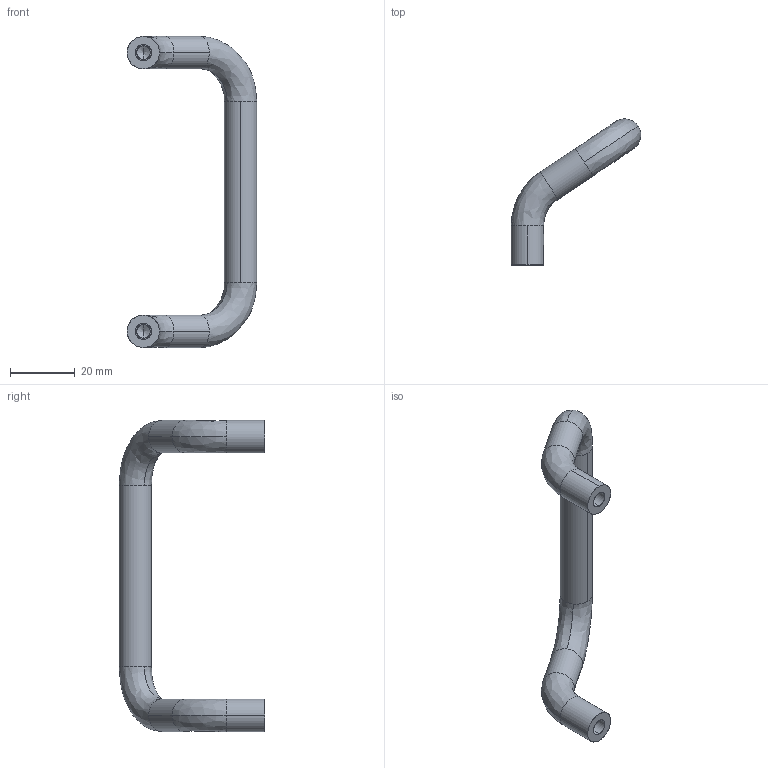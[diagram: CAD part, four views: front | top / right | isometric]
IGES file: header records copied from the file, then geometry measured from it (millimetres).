
Start section: SolidWorks IGES file using analytic representation for surfaces
Global section: file name: C:\Users\IanO\Desktop\Temp File\Process pending\79840_v2\79840_v2_20171115_IGES\79840.W0108.igs; native system: SolidWorks 2017; preprocessor: SolidWorks 2017; author: IanO; date: 171115.103754; units: millimetre
Bounding box: 39.99 x 45 x 96 mm (x, y, z)
Surface area: 6248.3 mm2 (no closed solid volume)
Topology: 0 solids, 0 shells, 34 faces, 396 edges, 392 vertices
Faces by surface type: revolution 22, bspline 12
